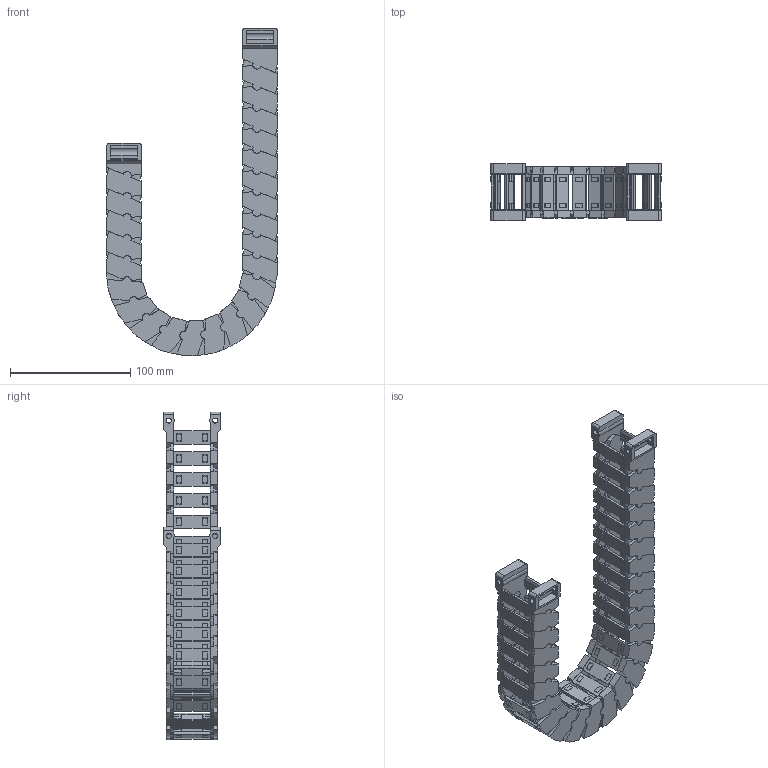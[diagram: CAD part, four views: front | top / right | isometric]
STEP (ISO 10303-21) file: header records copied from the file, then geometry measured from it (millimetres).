
FILE_DESCRIPTION(/* description */ (''),/* implementation_level */ '2;1');
FILE_NAME(/* name */ 'JY22-30-R55.stp',/* time_stamp */ '2026-06-20T14:16:58+08:00',/* author */ (''),/* organization */ (''),/* preprocessor_version */ 'ST-DEVELOPER v19.4',/* originating_system */ 'SIEMENS PLM Software NX2306.5001',/* authorisation */ '');
FILE_SCHEMA (('AP203_CONFIGURATION_CONTROLLED_3D_DESIGN_OF_MECHANICAL_PARTS_AND_ASSEMBLIES_MIM_LF { 1 0 10303 403 2 1 2}'));
Products named in the file (1): 简易图纸_Admi079CF058wu9n
Bounding box: 142.01 x 47.5 x 272.44 mm (x, y, z)
Volume: 192245.6 mm3; surface area: 171814.4 mm2
Topology: 26 solids, 26 shells, 4302 faces, 13928 edges, 9272 vertices
Faces by surface type: plane 3222, cylinder 684, cone 200, bspline 196
Full cylindrical faces by diameter (mm): 4.2 x8, 7 x50, 7.1 x50
Entity records: 160042 total; most frequent: CARTESIAN_POINT 37943, ORIENTED_EDGE 27424, DIRECTION 23666, EDGE_CURVE 13712, LINE 9376, VECTOR 9376, VERTEX_POINT 9164, AXIS2_PLACEMENT_3D 7145
